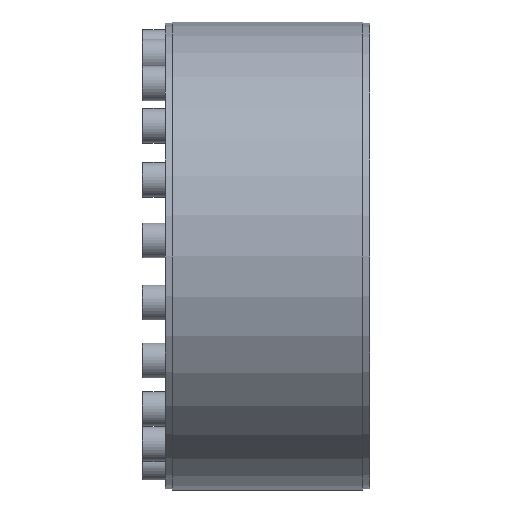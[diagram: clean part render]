
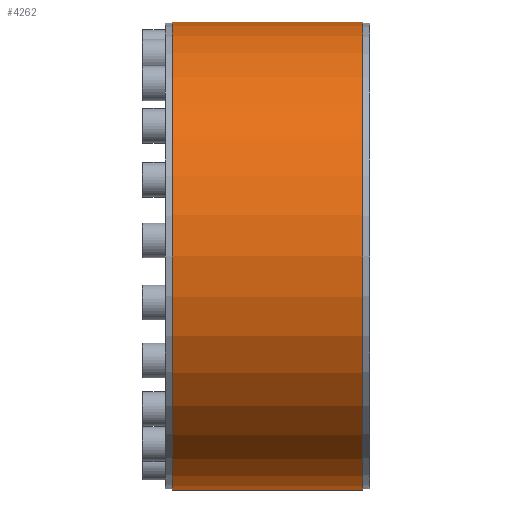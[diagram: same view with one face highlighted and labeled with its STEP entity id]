
A CAD part, left-side view. The second image highlights one B-rep face of the part: STEP entity #4262.
In plain terms, the highlighted cylindrical face has radius 202.5 mm (diameter 405 mm), a partial arc.
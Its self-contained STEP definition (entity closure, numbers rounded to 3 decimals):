
#268 = DIRECTION ( 'NONE',  ( 0., -1., 0. ) ) ;
#277 = DIRECTION ( 'NONE',  ( 0., -1., 0. ) ) ;
#434 = VERTEX_POINT ( 'NONE', #4965 ) ;
#714 = VERTEX_POINT ( 'NONE', #4053 ) ;
#865 = CARTESIAN_POINT ( 'NONE',  ( 0., 0., -202.5 ) ) ;
#879 = CYLINDRICAL_SURFACE ( 'NONE', #5969, 202.5 ) ;
#921 = VERTEX_POINT ( 'NONE', #4869 ) ;
#957 = DIRECTION ( 'NONE',  ( 0., 0., -1. ) ) ;
#1493 = AXIS2_PLACEMENT_3D ( 'NONE', #5036, #4438, #957 ) ;
#1608 = ORIENTED_EDGE ( 'NONE', *, *, #3607, .F. ) ;
#1720 = CARTESIAN_POINT ( 'NONE',  ( 0., 82.5, -202.5 ) ) ;
#1750 = VERTEX_POINT ( 'NONE', #1720 ) ;
#1826 = DIRECTION ( 'NONE',  ( 0., 0., -1. ) ) ;
#2050 = EDGE_CURVE ( 'NONE', #1750, #921, #3816, .T. ) ;
#2100 = DIRECTION ( 'NONE',  ( 0., 0., -1. ) ) ;
#2262 = VECTOR ( 'NONE', #268, 1000. ) ;
#2497 = FACE_OUTER_BOUND ( 'NONE', #6972, .T. ) ;
#2816 = ORIENTED_EDGE ( 'NONE', *, *, #6897, .T. ) ;
#3160 = CIRCLE ( 'NONE', #1493, 202.5 ) ;
#3607 = EDGE_CURVE ( 'NONE', #714, #921, #3160, .T. ) ;
#3816 = LINE ( 'NONE', #865, #2262 ) ;
#4053 = CARTESIAN_POINT ( 'NONE',  ( 0., -82.5, 202.5 ) ) ;
#4088 = DIRECTION ( 'NONE',  ( 0., -1., 0. ) ) ;
#4262 = ADVANCED_FACE ( 'NONE', ( #2497 ), #879, .T. ) ;
#4438 = DIRECTION ( 'NONE',  ( 0., -1., 0. ) ) ;
#4573 = ORIENTED_EDGE ( 'NONE', *, *, #5404, .F. ) ;
#4694 = CARTESIAN_POINT ( 'NONE',  ( 0., 82.5, 0. ) ) ;
#4869 = CARTESIAN_POINT ( 'NONE',  ( 0., -82.5, -202.5 ) ) ;
#4965 = CARTESIAN_POINT ( 'NONE',  ( 0., 82.5, 202.5 ) ) ;
#5036 = CARTESIAN_POINT ( 'NONE',  ( 0., -82.5, 0. ) ) ;
#5293 = DIRECTION ( 'NONE',  ( 0., -1., 0. ) ) ;
#5404 = EDGE_CURVE ( 'NONE', #434, #714, #6841, .T. ) ;
#5880 = ORIENTED_EDGE ( 'NONE', *, *, #2050, .T. ) ;
#5969 = AXIS2_PLACEMENT_3D ( 'NONE', #6574, #277, #2100 ) ;
#6109 = VECTOR ( 'NONE', #4088, 1000. ) ;
#6169 = CIRCLE ( 'NONE', #6678, 202.5 ) ;
#6574 = CARTESIAN_POINT ( 'NONE',  ( 0., 0., 0. ) ) ;
#6678 = AXIS2_PLACEMENT_3D ( 'NONE', #4694, #5293, #1826 ) ;
#6841 = LINE ( 'NONE', #7448, #6109 ) ;
#6897 = EDGE_CURVE ( 'NONE', #434, #1750, #6169, .T. ) ;
#6972 = EDGE_LOOP ( 'NONE', ( #4573, #2816, #5880, #1608 ) ) ;
#7448 = CARTESIAN_POINT ( 'NONE',  ( 0., 0., 202.5 ) ) ;
